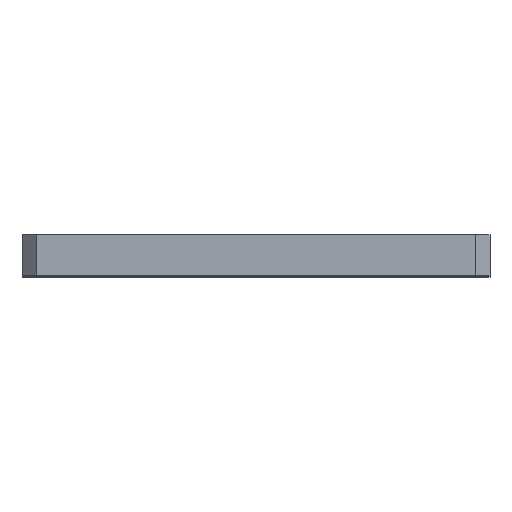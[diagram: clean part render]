
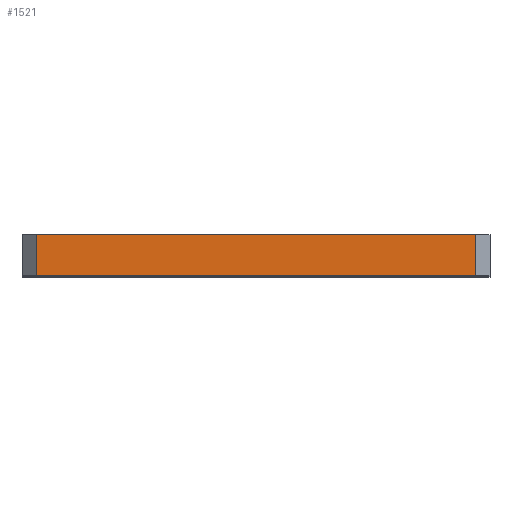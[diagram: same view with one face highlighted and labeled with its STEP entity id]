
A CAD part, top view. The second image highlights one B-rep face of the part: STEP entity #1521.
In plain terms, the highlighted planar face has unit normal (0, 0, -1).
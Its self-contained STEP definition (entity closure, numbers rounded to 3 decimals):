
#1 = CARTESIAN_POINT ( 'NONE',  ( 172.617, -56.199, 111.256 ) ) ;
#2 = DIRECTION ( 'NONE',  ( 1., 0., 0. ) ) ;
#62 = VECTOR ( 'NONE', #1474, 1000. ) ;
#175 = VERTEX_POINT ( 'NONE', #615 ) ;
#269 = DIRECTION ( 'NONE',  ( -1., 0., 0. ) ) ;
#333 = LINE ( 'NONE', #1302, #1998 ) ;
#453 = EDGE_CURVE ( 'NONE', #175, #1632, #1061, .T. ) ;
#603 = DIRECTION ( 'NONE',  ( 1., 0., 0. ) ) ;
#615 = CARTESIAN_POINT ( 'NONE',  ( 279.617, -56.199, 111.256 ) ) ;
#618 = DIRECTION ( 'NONE',  ( 0., 0., 1. ) ) ;
#743 = EDGE_LOOP ( 'NONE', ( #1054, #1626, #1678, #1017 ) ) ;
#760 = VERTEX_POINT ( 'NONE', #2071 ) ;
#813 = VECTOR ( 'NONE', #269, 1000. ) ;
#917 = EDGE_CURVE ( 'NONE', #1961, #1632, #333, .T. ) ;
#979 = EDGE_CURVE ( 'NONE', #1961, #760, #1033, .T. ) ;
#1017 = ORIENTED_EDGE ( 'NONE', *, *, #1071, .F. ) ;
#1033 = LINE ( 'NONE', #1615, #1144 ) ;
#1054 = ORIENTED_EDGE ( 'NONE', *, *, #979, .F. ) ;
#1060 = FACE_OUTER_BOUND ( 'NONE', #743, .T. ) ;
#1061 = LINE ( 'NONE', #1234, #813 ) ;
#1071 = EDGE_CURVE ( 'NONE', #760, #175, #1897, .T. ) ;
#1113 = DIRECTION ( 'NONE',  ( 0., 1., 0. ) ) ;
#1144 = VECTOR ( 'NONE', #2, 1000. ) ;
#1234 = CARTESIAN_POINT ( 'NONE',  ( 279.617, -56.199, 111.256 ) ) ;
#1302 = CARTESIAN_POINT ( 'NONE',  ( 172.617, -66.199, 111.256 ) ) ;
#1423 = CARTESIAN_POINT ( 'NONE',  ( 226.117, -61.199, 111.256 ) ) ;
#1474 = DIRECTION ( 'NONE',  ( 0., 1., 0. ) ) ;
#1521 = ADVANCED_FACE ( 'NONE', ( #1060 ), #2070, .F. ) ;
#1531 = CARTESIAN_POINT ( 'NONE',  ( 172.617, -66.199, 111.256 ) ) ;
#1615 = CARTESIAN_POINT ( 'NONE',  ( 172.617, -66.199, 111.256 ) ) ;
#1626 = ORIENTED_EDGE ( 'NONE', *, *, #917, .T. ) ;
#1632 = VERTEX_POINT ( 'NONE', #1 ) ;
#1678 = ORIENTED_EDGE ( 'NONE', *, *, #453, .F. ) ;
#1787 = CARTESIAN_POINT ( 'NONE',  ( 279.617, -66.199, 111.256 ) ) ;
#1897 = LINE ( 'NONE', #1787, #62 ) ;
#1934 = AXIS2_PLACEMENT_3D ( 'NONE', #1423, #618, #603 ) ;
#1961 = VERTEX_POINT ( 'NONE', #1531 ) ;
#1998 = VECTOR ( 'NONE', #1113, 1000. ) ;
#2070 = PLANE ( 'NONE',  #1934 ) ;
#2071 = CARTESIAN_POINT ( 'NONE',  ( 279.617, -66.199, 111.256 ) ) ;
